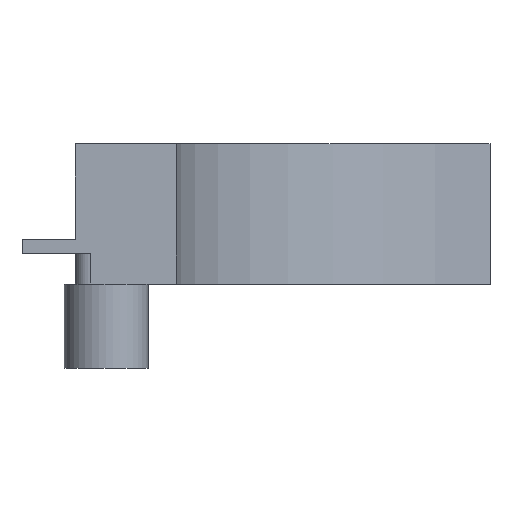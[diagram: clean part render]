
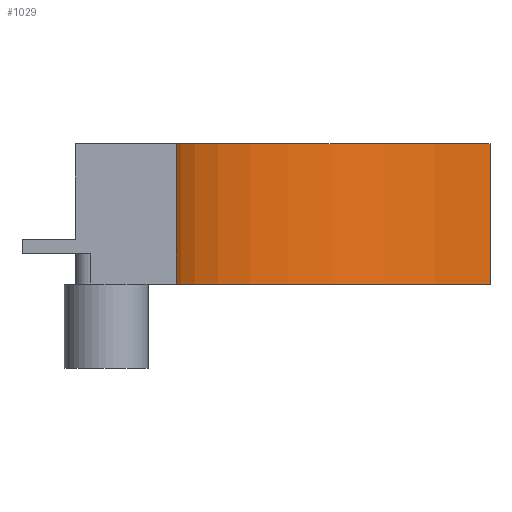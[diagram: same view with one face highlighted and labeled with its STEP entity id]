
A CAD part, front view. The second image highlights one B-rep face of the part: STEP entity #1029.
In plain terms, the highlighted cylindrical face has radius 11.2 mm (diameter 22.4 mm), a partial arc.
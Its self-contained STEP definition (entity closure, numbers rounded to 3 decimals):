
#45=CARTESIAN_POINT('',(0.,0.,0.));
#46=DIRECTION('',(0.,0.,-1.));
#47=DIRECTION('',(-1.,0.,0.));
#48=AXIS2_PLACEMENT_3D('',#45,#46,#47);
#138=CARTESIAN_POINT('',(0.,0.,5.));
#139=DIRECTION('',(0.,0.,-1.));
#140=DIRECTION('',(-1.,0.,0.));
#141=AXIS2_PLACEMENT_3D('',#138,#139,#140);
#288=DIRECTION('',(0.,0.,1.));
#289=VECTOR('',#288,5.);
#290=CARTESIAN_POINT('',(-11.2,0.,0.));
#291=LINE('',#290,#289);
#296=DIRECTION('',(0.,0.,1.));
#297=VECTOR('',#296,5.);
#298=CARTESIAN_POINT('',(0.,11.2,0.));
#299=LINE('',#298,#297);
#486=CARTESIAN_POINT('',(-11.2,0.,0.));
#487=CARTESIAN_POINT('',(0.,11.2,0.));
#488=VERTEX_POINT('',#486);
#489=VERTEX_POINT('',#487);
#490=CARTESIAN_POINT('',(0.,11.2,5.));
#492=VERTEX_POINT('',#490);
#496=CARTESIAN_POINT('',(-11.2,0.,5.));
#497=VERTEX_POINT('',#496);
#1017=CARTESIAN_POINT('',(0.,0.,0.));
#1018=DIRECTION('',(0.,0.,1.));
#1019=DIRECTION('',(1.,0.,0.));
#1020=AXIS2_PLACEMENT_3D('',#1017,#1018,#1019);
#1021=CYLINDRICAL_SURFACE('',#1020,11.2);
#1022=ORIENTED_EDGE('',*,*,#641,.F.);
#1023=ORIENTED_EDGE('',*,*,#975,.T.);
#1024=ORIENTED_EDGE('',*,*,#732,.T.);
#1026=ORIENTED_EDGE('',*,*,#1025,.F.);
#1027=EDGE_LOOP('',(#1022,#1023,#1024,#1026));
#1028=FACE_OUTER_BOUND('',#1027,.F.);
#1029=ADVANCED_FACE('',(#1028),#1021,.F.);
#49=CIRCLE('',#48,11.2);
#142=CIRCLE('',#141,11.2);
#641=EDGE_CURVE('',#488,#489,#49,.T.);
#732=EDGE_CURVE('',#497,#492,#142,.T.);
#975=EDGE_CURVE('',#488,#497,#291,.T.);
#1025=EDGE_CURVE('',#489,#492,#299,.T.);
